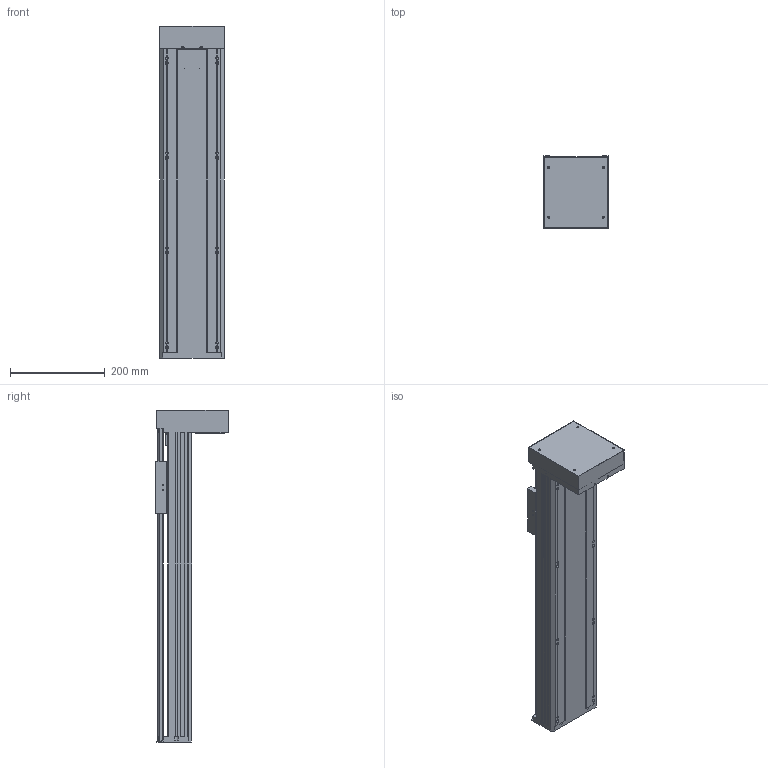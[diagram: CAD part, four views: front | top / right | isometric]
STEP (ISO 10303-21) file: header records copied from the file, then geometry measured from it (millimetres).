
FILE_DESCRIPTION(/* description */ (''),/* implementation_level */ '2;1');
FILE_NAME(/* name */ 'TKA136-FD-450_asm1.stp',/* time_stamp */ '2016-05-07T09:21:32+08:00',/* author */ (''),/* organization */ (''),/* preprocessor_version */ 'ST-DEVELOPER v15',/* originating_system */ 'SIEMENS PLM Software NX 8.5',/* authorisation */ '');
FILE_SCHEMA (('AUTOMOTIVE_DESIGN { 1 0 10303 214 3 1 1 1 }'));
Length unit declared in the file: millimetre
Products named in the file (3): 100-02; 100-01; TKA136-FD-450_asm1
Assembly tree (2 placements, depth 2):
  TKA136-FD-450_asm1
    100-01
    100-02
Bounding box: 136 x 152 x 700 mm (x, y, z)
Volume: 2372092.1 mm3; surface area: 919379.5 mm2
Topology: 2 solids, 13 shells, 912 faces, 2515 edges, 1619 vertices
Faces by surface type: cylinder 427, plane 420, cone 65
Full cylindrical faces by diameter (mm): 3 x2, 3.3 x13, 4 x4, 4.2 x8, 4.5 x14, 5 x8, 5.5 x26, 6.6 x12, 8 x12, 10 x9, 10.5 x8, 11 x4, 11.6 x1, 12 x9, 15 x3, 16 x5, 17 x1, 24 x5, 26 x1, 28 x1, 46 x1, 50 x2
Entity records: 30282 total; most frequent: CARTESIAN_POINT 7724, DIRECTION 4750, ORIENTED_EDGE 4426, EDGE_CURVE 2213, AXIS2_PLACEMENT_3D 1795, VERTEX_POINT 1536, EDGE_LOOP 1282, LINE 1160
